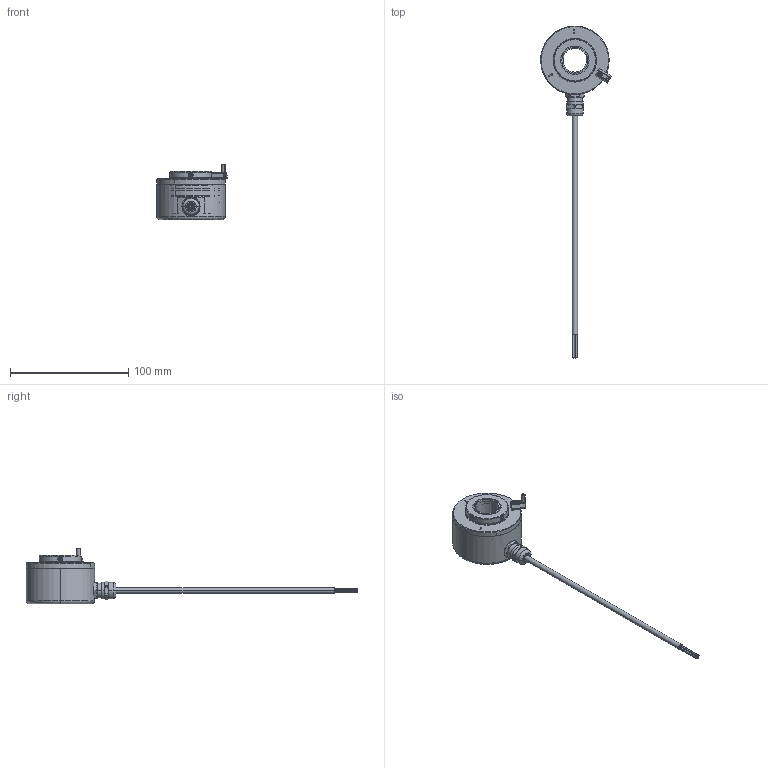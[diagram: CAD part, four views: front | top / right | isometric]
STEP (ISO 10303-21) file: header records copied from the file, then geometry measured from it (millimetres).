
FILE_DESCRIPTION (( 'STEP AP214' ), '1' );
FILE_NAME ('Step 8_5821_1CX1_XXXX.STEP', '2012-12-11T10:06:18', ( 'Langer' ), ( 'IST GmbH' ), 'SwSTEP 2.0', 'SolidWorks 2009', '' );
FILE_SCHEMA (( 'AUTOMOTIVE_DESIGN' ));
Length unit declared in the file: millimetre
Products named in the file (1): Step 8_5821_1CX1_XXXX
Bounding box: 59.88 x 280.9 x 47.09 mm (x, y, z)
Volume: 57838.8 mm3; surface area: 46408.9 mm2
Topology: 17 solids, 17 shells, 745 faces, 1732 edges, 1084 vertices
Faces by surface type: plane 332, cylinder 256, cone 113, torus 42, sphere 2
Entity records: 30148 total; most frequent: CARTESIAN_POINT 4343, DIRECTION 3837, ORIENTED_EDGE 3408, EDGE_CURVE 1704, AXIS2_PLACEMENT_3D 1464, VERTEX_POINT 1084, VECTOR 909, LINE 909
